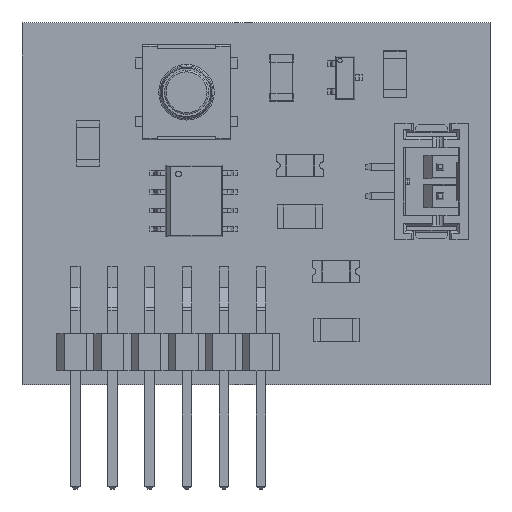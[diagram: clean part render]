
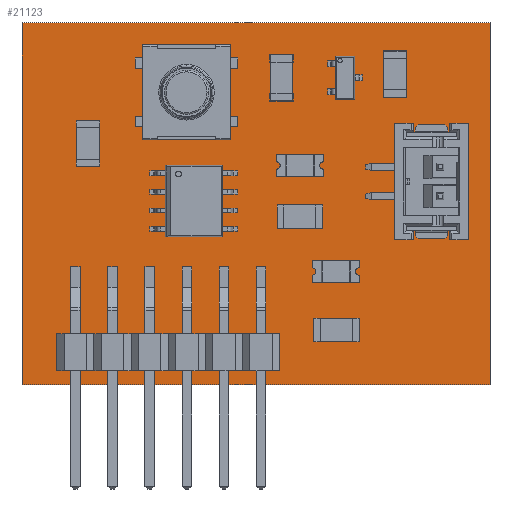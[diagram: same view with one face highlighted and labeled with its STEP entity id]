
A CAD part, top view. The second image highlights one B-rep face of the part: STEP entity #21123.
In plain terms, the highlighted planar face has unit normal (0, 0, 1).
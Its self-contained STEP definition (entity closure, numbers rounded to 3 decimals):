
#20994 = VERTEX_POINT('',#20995);
#20995 = CARTESIAN_POINT('',(165.5,-103.,1.51));
#21001 = EDGE_CURVE('',#20994,#21002,#21004,.T.);
#21002 = VERTEX_POINT('',#21003);
#21003 = CARTESIAN_POINT('',(133.5,-103.,1.51));
#21004 = LINE('',#21005,#21006);
#21005 = CARTESIAN_POINT('',(165.5,-103.,1.51));
#21006 = VECTOR('',#21007,1.);
#21007 = DIRECTION('',(-1.,0.,0.));
#21032 = EDGE_CURVE('',#21002,#21033,#21035,.T.);
#21033 = VERTEX_POINT('',#21034);
#21034 = CARTESIAN_POINT('',(133.5,-78.25,1.51));
#21035 = LINE('',#21036,#21037);
#21036 = CARTESIAN_POINT('',(133.5,-103.,1.51));
#21037 = VECTOR('',#21038,1.);
#21038 = DIRECTION('',(0.,1.,0.));
#21063 = EDGE_CURVE('',#21033,#21064,#21066,.T.);
#21064 = VERTEX_POINT('',#21065);
#21065 = CARTESIAN_POINT('',(165.5,-78.25,1.51));
#21066 = LINE('',#21067,#21068);
#21067 = CARTESIAN_POINT('',(133.5,-78.25,1.51));
#21068 = VECTOR('',#21069,1.);
#21069 = DIRECTION('',(1.,0.,0.));
#21094 = EDGE_CURVE('',#21064,#20994,#21095,.T.);
#21095 = LINE('',#21096,#21097);
#21096 = CARTESIAN_POINT('',(165.5,-78.25,1.51));
#21097 = VECTOR('',#21098,1.);
#21098 = DIRECTION('',(0.,-1.,0.));
#21123 = ADVANCED_FACE('',(#21124),#21130,.T.);
#21124 = FACE_BOUND('',#21125,.F.);
#21125 = EDGE_LOOP('',(#21126,#21127,#21128,#21129));
#21126 = ORIENTED_EDGE('',*,*,#21001,.T.);
#21127 = ORIENTED_EDGE('',*,*,#21032,.T.);
#21128 = ORIENTED_EDGE('',*,*,#21063,.T.);
#21129 = ORIENTED_EDGE('',*,*,#21094,.T.);
#21130 = PLANE('',#21131);
#21131 = AXIS2_PLACEMENT_3D('',#21132,#21133,#21134);
#21132 = CARTESIAN_POINT('',(0.,0.,1.51));
#21133 = DIRECTION('',(0.,0.,1.));
#21134 = DIRECTION('',(1.,0.,-0.));
